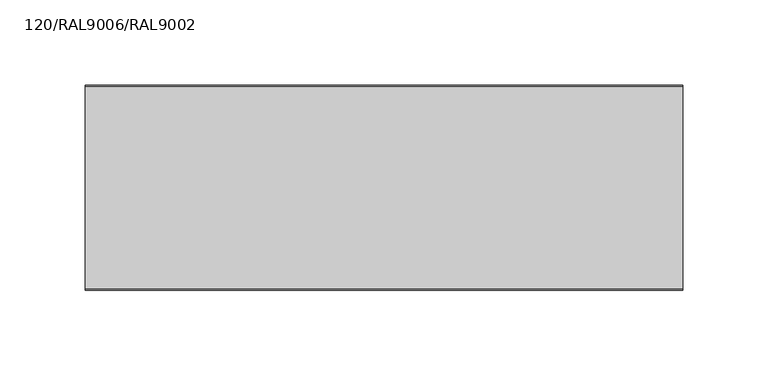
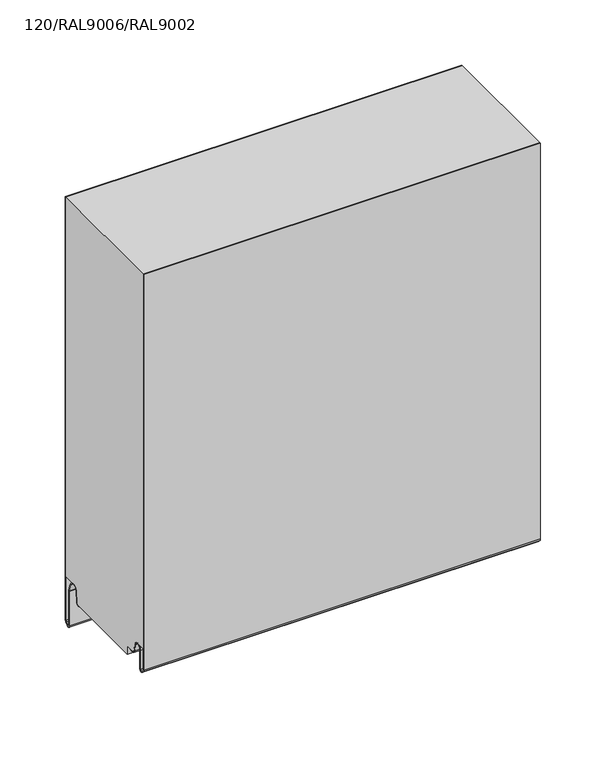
"""IFC4 building model written with IfcOpenShell, lengths in millimetres: plate geometry, TR_C_H_FHL_Panel_cut_GROOVE : 120/RAL9006/RAL9002."""

from ifc_helpers import new_model, si_unit, point, frame, frame_2d, origin, place, context, project, spatial, polyline, circle_curve, trimmed, segment, composite_curve, outline, extrude, source, transform, mapped, element, save


def plate_120_ral9006_ral9002_aaf2c811(model_context):
    return source(origin(), model_context, "Body", "SweptSolid", [
        extrude(outline(composite_curve([segment(polyline([(-0.8, 15.9993484), (-12.3520294, 15.9993484)]), True, "CONTINUOUS"), segment(trimmed(circle_curve(frame_2d((-12.3520294, 11.0993484)), 4.9), [point((-12.3520294, 15.9993484))], [point((-17.2333835, 11.5264116))], True, "CARTESIAN"), True, "CONTINUOUS"), segment(polyline([(-17.2333835, 11.5264116), (-18.0972969, 1.6518352)]), True, "CONTINUOUS"), segment(trimmed(circle_curve(frame_2d((-19.7908279, 1.8)), 1.7), [point((-18.0972969, 1.6518352))], [point((-19.7908279, 0.1))], False, "CARTESIAN"), True, "CONTINUOUS"), segment(polyline([(-19.7908279, 0.1), (-20.8, 0.0), (-94.86, 0.0), (-94.86, 7.9), (-102.3925589, 7.9)]), True, "CONTINUOUS"), segment(trimmed(circle_curve(frame_2d((-102.3925589, 10.85)), 2.95), [point((-102.3925589, 7.9))], [point((-105.2977418, 10.3377379))], False, "CARTESIAN"), True, "CONTINUOUS"), segment(polyline([(-105.2977418, 10.3377379), (-106.364567, 16.3880048)]), True, "CONTINUOUS"), segment(trimmed(circle_curve(frame_2d((-110.55, 15.65)), 4.25), [point((-106.364567, 16.3880048))], [point((-110.55, 19.9))], True, "CARTESIAN"), True, "CONTINUOUS"), segment(polyline([(-110.55, 19.9), (-119.2, 19.9), (-119.2, 370.0), (-0.8, 370.0), (-0.8, 15.9993484)]), True, "CONTINUOUS")], self_intersect=False)), frame((-240.0, 0.0, 0.0), z_axis=(1.0, 0.0, 0.0), x_axis=(0.0, 1.0, 0.0)), (0.0, 0.0, 1.0), 350.0),
        extrude(outline(composite_curve([segment(polyline([(-20.8, -0.7), (-20.8, 0.1), (-19.7908279, 0.1)]), True, "CONTINUOUS"), segment(trimmed(circle_curve(frame_2d((-19.7908279, 1.8)), 1.7), [point((-19.7908279, 0.1))], [point((-18.0972969, 1.6518352))], True, "CARTESIAN"), True, "CONTINUOUS"), segment(polyline([(-18.0972969, 1.6518352), (-17.2333835, 11.5264116)]), True, "CONTINUOUS"), segment(trimmed(circle_curve(frame_2d((-12.3520294, 11.0993484)), 4.9), [point((-17.2333835, 11.5264116))], [point((-7.7189884, 12.6946324))], False, "CARTESIAN"), True, "CONTINUOUS"), segment(polyline([(-7.7189884, 12.6946324), (-5.3797887, 5.9011031)]), True, "CONTINUOUS"), segment(trimmed(circle_curve(frame_2d((-8.5, 4.8267282)), 3.3), [point((-5.3797887, 5.9011031))], [point((-5.2, 4.8267282))], False, "CARTESIAN"), True, "CONTINUOUS"), segment(polyline([(-5.2, 4.8267282), (-5.2, -27.5)]), True, "CONTINUOUS"), segment(trimmed(circle_curve(frame_2d((-4.1, -27.5)), 1.1), [point((-5.2, -27.5))], [point((-3.3498018, -28.3044891))], True, "CARTESIAN"), True, "CONTINUOUS"), segment(polyline([(-3.3498018, -28.3044891), (-1.4042031, -26.4901889)]), True, "CONTINUOUS"), segment(trimmed(circle_curve(frame_2d((-2.7, -25.1006169)), 1.9), [point((-1.4042031, -26.4901889))], [point((-0.8, -25.1006169))], True, "CARTESIAN"), True, "CONTINUOUS"), segment(polyline([(-0.8, -25.1006169), (-0.8, 370.0), (0.0, 370.0), (0.0, -25.1006169)]), True, "CONTINUOUS"), segment(trimmed(circle_curve(frame_2d((-2.7, -25.1006169)), 2.7), [point((0.0, -25.1006169))], [point((-0.8586044, -27.0752719))], False, "CARTESIAN"), True, "CONTINUOUS"), segment(polyline([(-0.8586044, -27.0752719), (-2.8042031, -28.889572)]), True, "CONTINUOUS"), segment(trimmed(circle_curve(frame_2d((-4.1, -27.5)), 1.9), [point((-2.8042031, -28.889572))], [point((-6.0, -27.5))], False, "CARTESIAN"), True, "CONTINUOUS"), segment(polyline([(-6.0, -27.5), (-6.0, 4.8267282)]), True, "CONTINUOUS"), segment(trimmed(circle_curve(frame_2d((-8.5, 4.8267282)), 2.5), [point((-6.0, 4.8267282))], [point((-6.1362036, 5.6406486))], True, "CARTESIAN"), True, "CONTINUOUS"), segment(polyline([(-6.1362036, 5.6406486), (-8.4754033, 12.4341779)]), True, "CONTINUOUS"), segment(trimmed(circle_curve(frame_2d((-12.3520294, 11.0993484)), 4.1), [point((-8.4754033, 12.4341779))], [point((-16.4364277, 11.456687))], True, "CARTESIAN"), True, "CONTINUOUS"), segment(polyline([(-16.4364277, 11.456687), (-17.3003412, 1.5821106)]), True, "CONTINUOUS"), segment(trimmed(circle_curve(frame_2d((-19.7908279, 1.8)), 2.5), [point((-17.3003412, 1.5821106))], [point((-19.7908279, -0.7))], False, "CARTESIAN"), True, "CONTINUOUS"), segment(polyline([(-19.7908279, -0.7), (-20.8, -0.7)]), True, "CONTINUOUS")], self_intersect=False)), frame((-240.0, 0.0, 0.0), z_axis=(1.0, 0.0, 0.0), x_axis=(0.0, 1.0, 0.0)), (0.0, 0.0, 1.0), 350.0),
        extrude(outline(composite_curve([segment(polyline([(-99.0, 7.1), (-102.3925589, 7.1)]), True, "CONTINUOUS"), segment(trimmed(circle_curve(frame_2d((-102.3925589, 10.85)), 3.75), [point((-102.3925589, 7.1))], [point((-106.085588, 10.1988193))], False, "CARTESIAN"), True, "CONTINUOUS"), segment(polyline([(-106.085588, 10.1988193), (-107.1524133, 16.2490862)]), True, "CONTINUOUS"), segment(trimmed(circle_curve(frame_2d((-110.55, 15.65)), 3.45), [point((-107.1524133, 16.2490862))], [point((-114.0, 15.65))], True, "CARTESIAN"), True, "CONTINUOUS"), segment(polyline([(-114.0, 15.65), (-114.0, -1.95)]), True, "CONTINUOUS"), segment(trimmed(circle_curve(frame_2d((-115.95, -1.95)), 1.95), [point((-114.0, -1.95))], [point((-117.3288582, -3.3288582))], False, "CARTESIAN"), True, "CONTINUOUS"), segment(polyline([(-117.3288582, -3.3288582), (-119.1945436, -1.4631728)]), True, "CONTINUOUS"), segment(trimmed(circle_curve(frame_2d((-117.25, 0.4813708)), 2.75), [point((-119.1945436, -1.4631728))], [point((-120.0, 0.4813708))], False, "CARTESIAN"), True, "CONTINUOUS"), segment(polyline([(-120.0, 0.4813708), (-120.0, 370.0), (-119.2, 370.0), (-119.2, 0.4813708)]), True, "CONTINUOUS"), segment(trimmed(circle_curve(frame_2d((-117.25, 0.4813708)), 1.95), [point((-119.2, 0.4813708))], [point((-118.6288582, -0.8974874))], True, "CARTESIAN"), True, "CONTINUOUS"), segment(polyline([(-118.6288582, -0.8974874), (-116.7631728, -2.7631728)]), True, "CONTINUOUS"), segment(trimmed(circle_curve(frame_2d((-115.95, -1.95)), 1.15), [point((-116.7631728, -2.7631728))], [point((-114.8, -1.95))], True, "CARTESIAN"), True, "CONTINUOUS"), segment(polyline([(-114.8, -1.95), (-114.8, 15.65)]), True, "CONTINUOUS"), segment(trimmed(circle_curve(frame_2d((-110.55, 15.65)), 4.25), [point((-114.8, 15.65))], [point((-106.364567, 16.3880048))], False, "CARTESIAN"), True, "CONTINUOUS"), segment(polyline([(-106.364567, 16.3880048), (-105.2977418, 10.3377379)]), True, "CONTINUOUS"), segment(trimmed(circle_curve(frame_2d((-102.3925589, 10.85)), 2.95), [point((-105.2977418, 10.3377379))], [point((-102.3925589, 7.9))], True, "CARTESIAN"), True, "CONTINUOUS"), segment(polyline([(-102.3925589, 7.9), (-99.0, 7.9), (-99.0, 7.1)]), True, "CONTINUOUS")], self_intersect=False)), frame((-240.0, 0.0, 0.0), z_axis=(1.0, 0.0, 0.0), x_axis=(0.0, 1.0, 0.0)), (0.0, 0.0, 1.0), 350.0),
    ])


if __name__ == "__main__":
    model = new_model("IFC4")
    model_context = context("Model", 3, world=origin())
    ifc_project = project(units=[si_unit("LENGTHUNIT", "METRE", prefix="MILLI")], contexts=[model_context])
    site = spatial("IfcSite", under=ifc_project)
    building = spatial("IfcBuilding", under=site)
    placement = place(None, origin())
    plate_120_ral9006_ral9002_shape = plate_120_ral9006_ral9002_aaf2c811(model_context)
    element("IfcPlate", 1, ObjectType="TR_C_H_FHL_Panel_cut_GROOVE : 120/RAL9006/RAL9002", at=placement, inside=building, context=model_context, shape_type="MappedRepresentation", body=[
        mapped(plate_120_ral9006_ral9002_shape, transform((0.0, 0.0, 0.0), x_axis=(1.0, 0.0, 0.0), y_axis=(0.0, 1.0, 0.0), z_axis=(0.0, 0.0, 1.0))),
    ])
    save(model, "model.ifc")
